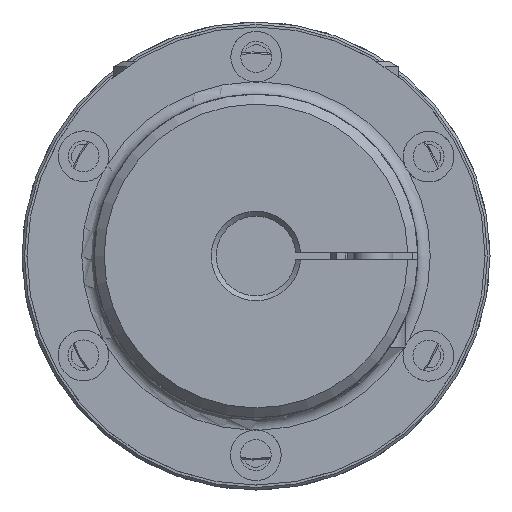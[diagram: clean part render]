
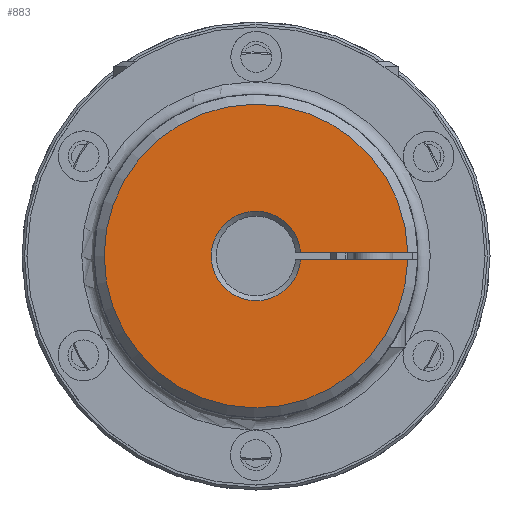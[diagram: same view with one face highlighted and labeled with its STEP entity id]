
A CAD part, left-side view. The second image highlights one B-rep face of the part: STEP entity #883.
In plain terms, the highlighted planar face has unit normal (-1, 0, 0) as drawn and (0, 0, -1) by its records, which use the part's own axes.
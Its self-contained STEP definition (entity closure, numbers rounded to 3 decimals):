
#883 = ADVANCED_FACE( '', ( #1674 ), #1675, .T. );
#1674 = FACE_OUTER_BOUND( '', #2625, .T. );
#1675 = PLANE( '', #2626 );
#2625 = EDGE_LOOP( '', ( #4298, #4299, #4300, #4301 ) );
#2626 = AXIS2_PLACEMENT_3D( '', #4302, #4303, #4304 );
#4298 = ORIENTED_EDGE( '', *, *, #6482, .F. );
#4299 = ORIENTED_EDGE( '', *, *, #6415, .T. );
#4300 = ORIENTED_EDGE( '', *, *, #6419, .T. );
#4301 = ORIENTED_EDGE( '', *, *, #6400, .T. );
#4302 = CARTESIAN_POINT( '', ( 0., 0., 0. ) );
#4303 = DIRECTION( '', ( 0., 0., -1. ) );
#4304 = DIRECTION( '', ( 0., -1., 0. ) );
#6400 = EDGE_CURVE( '', #7397, #7401, #7403, .F. );
#6415 = EDGE_CURVE( '', #7424, #7426, #7428, .T. );
#6419 = EDGE_CURVE( '', #7426, #7397, #7434, .F. );
#6482 = EDGE_CURVE( '', #7424, #7401, #7531, .T. );
#7397 = VERTEX_POINT( '', #9166 );
#7401 = VERTEX_POINT( '', #9173 );
#7403 = CIRCLE( '', #9178, 9. );
#7424 = VERTEX_POINT( '', #9226 );
#7426 = VERTEX_POINT( '', #9231 );
#7428 = CIRCLE( '', #9236, 30.5 );
#7434 = LINE( '', #9243, #9244 );
#7531 = LINE( '', #9427, #9428 );
#9166 = CARTESIAN_POINT( '', ( -8.969, -0.75, 0. ) );
#9173 = CARTESIAN_POINT( '', ( -8.969, 0.75, 0. ) );
#9178 = AXIS2_PLACEMENT_3D( '', #10965, #10966, #10967 );
#9226 = CARTESIAN_POINT( '', ( -30.491, 0.75, 0. ) );
#9231 = CARTESIAN_POINT( '', ( -30.491, -0.75, 0. ) );
#9236 = AXIS2_PLACEMENT_3D( '', #10991, #10992, #10993 );
#9243 = CARTESIAN_POINT( '', ( 0., -0.75, 0. ) );
#9244 = VECTOR( '', #11001, 1000. );
#9427 = CARTESIAN_POINT( '', ( -32.5, 0.75, 0. ) );
#9428 = VECTOR( '', #11119, 1000. );
#10965 = CARTESIAN_POINT( '', ( 0., 0., 0. ) );
#10966 = DIRECTION( '', ( 0., 0., -1. ) );
#10967 = DIRECTION( '', ( -1., 0., 0. ) );
#10991 = CARTESIAN_POINT( '', ( 0., 0., 0. ) );
#10992 = DIRECTION( '', ( 0., 0., -1. ) );
#10993 = DIRECTION( '', ( -1., 0., 0. ) );
#11001 = DIRECTION( '', ( -1., 0., 0. ) );
#11119 = DIRECTION( '', ( 1., 0., 0. ) );
